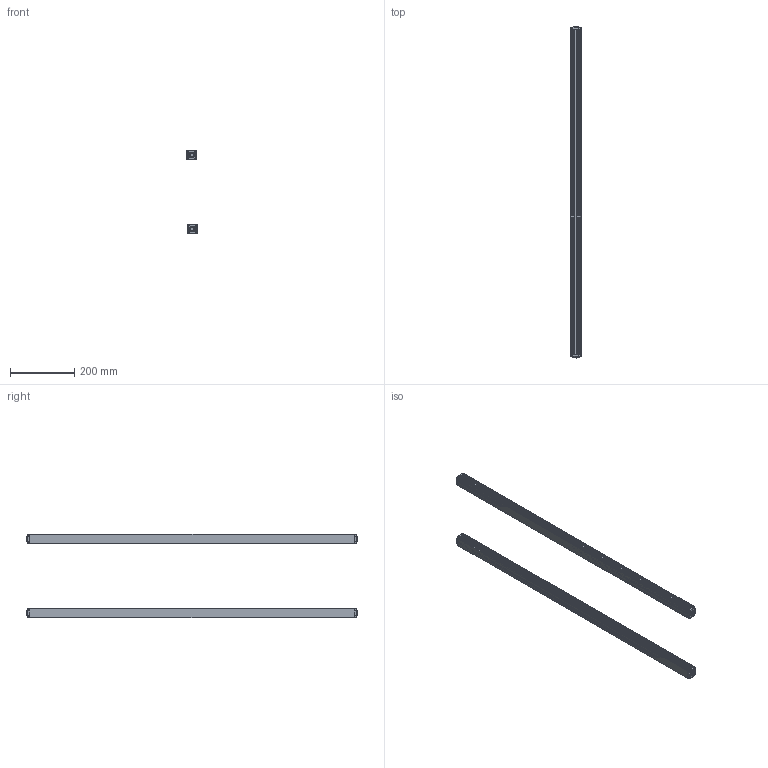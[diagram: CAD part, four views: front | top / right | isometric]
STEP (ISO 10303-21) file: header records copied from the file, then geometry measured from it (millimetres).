
FILE_DESCRIPTION (( 'STEP AP203' ), '1' );
FILE_NAME ('ZDA5020-1010.STEP', '2023-03-17T02:26:38', ( 'User' ), ( 'China' ), 'SwSTEP 2.0', 'SolidWorks 2020', '' );
FILE_SCHEMA (( 'CONFIG_CONTROL_DESIGN' ));
Length unit declared in the file: millimetre
Products named in the file (5): 錨璃8; 錨璃1; 錨璃8 - 萵掛 (2); 錨璃10; ZDA5020-1010
Assembly tree (7 placements, depth 2):
  ZDA5020-1010
    錨璃1  x2
    錨璃8  x2
    錨璃8 - 萵掛 (2)  x2
    錨璃10
Bounding box: 32.26 x 1031.4 x 260.24 mm (x, y, z)
Volume: 605810.3 mm3; surface area: 639964.1 mm2
Topology: 7 solids, 7 shells, 1050 faces, 2738 edges, 1696 vertices
Faces by surface type: plane 468, cylinder 318, cone 120, bspline 64, torus 48, sphere 32
Entity records: 18298 total; most frequent: CARTESIAN_POINT 4907, ORIENTED_EDGE 2726, DIRECTION 2656, EDGE_CURVE 1363, AXIS2_PLACEMENT_3D 906, VERTEX_POINT 852, LINE 844, VECTOR 844
